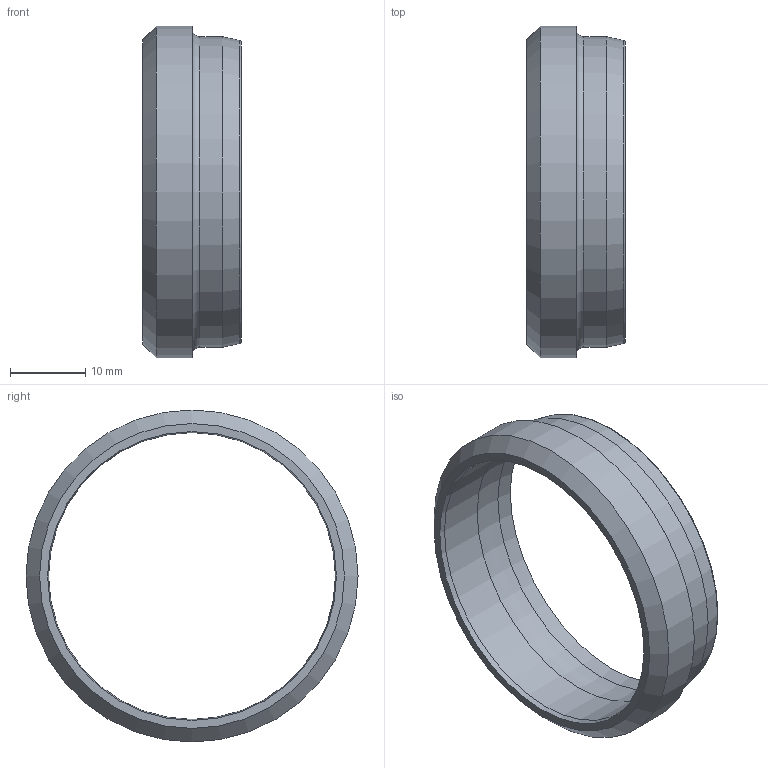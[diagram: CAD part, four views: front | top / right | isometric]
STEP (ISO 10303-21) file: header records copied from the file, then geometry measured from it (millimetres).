
FILE_DESCRIPTION( ( 'Unknown' ), '1' );
FILE_NAME( 'C:/Users/p.nanko/Desktop/3D SR/D38S.stp', 'Unknown', ( 'Peter Nanko' ), ( 'Armaturen Arndt' ), 'PSStep 14.0', 'Solid Edge ST4', ' ' );
FILE_SCHEMA( ( 'AUTOMOTIVE_DESIGN { 1 0 10303 214 1 1 1 1 }' ) );
Length unit declared in the file: millimetre
Products named in the file (1): 1001ESTERNO#0
Bounding box: 13.07 x 44 x 44 mm (x, y, z)
Volume: 3353.4 mm3; surface area: 3850.6 mm2
Topology: 1 solids, 1 shells, 15 faces, 30 edges, 19 vertices
Faces by surface type: torus 4, cone 4, plane 4, cylinder 3
Full cylindrical faces by diameter (mm): 38 x1, 41.15 x1, 44 x1
Entity records: 444 total; most frequent: DIRECTION 62, CARTESIAN_POINT 46, AXIS2_PLACEMENT_3D 31, EDGE_LOOP 30, ORIENTED_EDGE 30, FACE_OUTER_BOUND 22, STYLED_ITEM 15, PRESENTATION_STYLE_ASSIGNMENT 15
